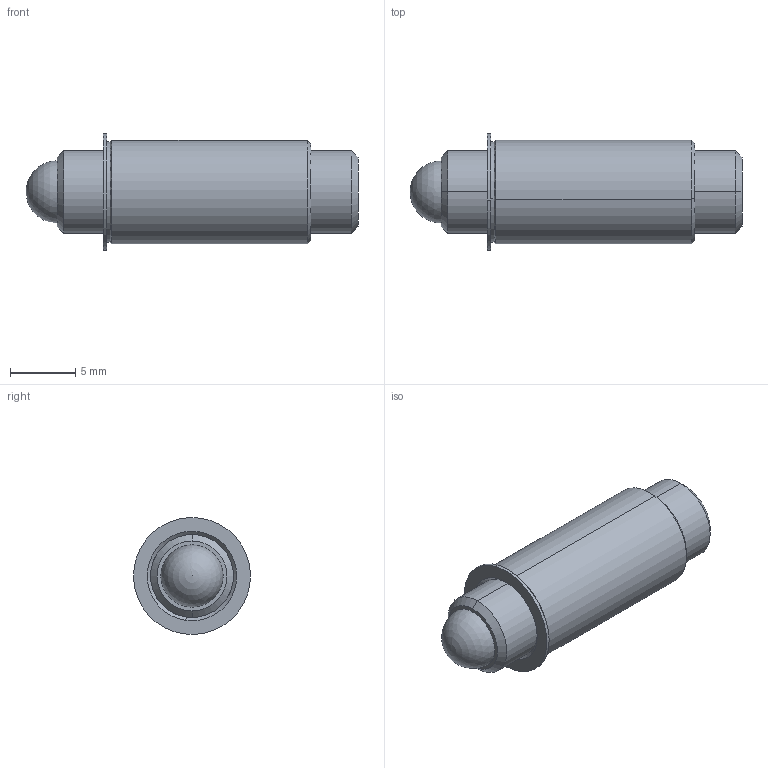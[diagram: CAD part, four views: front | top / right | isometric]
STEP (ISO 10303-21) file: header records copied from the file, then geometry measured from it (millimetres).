
FILE_DESCRIPTION (( 'STEP AP214' ), '1' );
FILE_NAME ('TSB250-80-1000_625-AA.STEP', '2013-03-14T12:42:55', ( 'workpc' ), ( 'Microsoft' ), 'SwSTEP 2.0', 'SolidWorks 2013', '' );
FILE_SCHEMA (( 'AUTOMOTIVE_DESIGN' ));
Length unit declared in the file: inch
Products named in the file (1): TSB250-80-1000_625-AA
Bounding box: 25.4 x 8.94 x 8.94 mm (x, y, z)
Surface area: 1039.4 mm2 (no closed solid volume)
Topology: 0 solids, 3 shells, 33 faces, 77 edges, 49 vertices
Faces by surface type: cone 12, plane 11, cylinder 8, sphere 2
Entity records: 1358 total; most frequent: DIRECTION 174, CARTESIAN_POINT 152, ORIENTED_EDGE 132, EDGE_CURVE 72, AXIS2_PLACEMENT_3D 68, VERTEX_POINT 46, LINE 38, VECTOR 38
